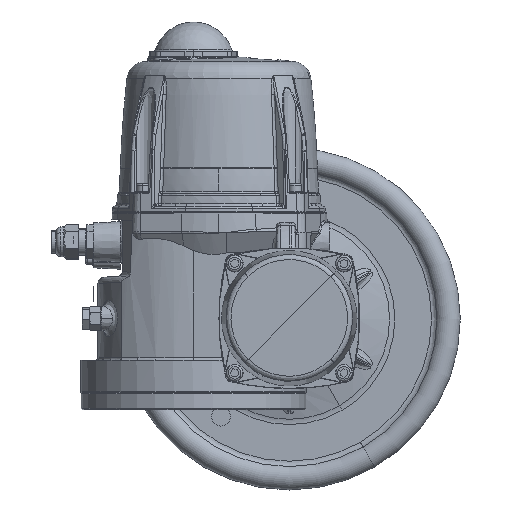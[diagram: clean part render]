
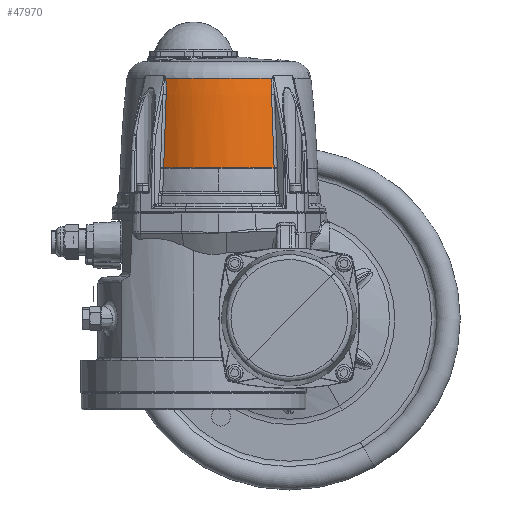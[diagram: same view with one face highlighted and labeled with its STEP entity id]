
A CAD part, top view. The second image highlights one B-rep face of the part: STEP entity #47970.
In plain terms, the highlighted toroidal (fillet/blend) face has major radius 830.547 mm and minor radius 908.797 mm.
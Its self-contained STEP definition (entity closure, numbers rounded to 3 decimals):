
#149 = EDGE_CURVE ( 'NONE', #50476, #1696, #61578, .T. ) ;
#1696 = VERTEX_POINT ( 'NONE', #61637 ) ;
#12374 = CARTESIAN_POINT ( 'NONE',  ( 151.626, 25.896, 59.202 ) ) ;
#26883 = DIRECTION ( 'NONE',  ( 1., 0., 0. ) ) ;
#26884 = DIRECTION ( 'NONE',  ( 0., 1., 0. ) ) ;
#26885 = CARTESIAN_POINT ( 'NONE',  ( 193.683, 25.896, 0. ) ) ;
#26886 = AXIS2_PLACEMENT_3D ( 'NONE', #26885, #26884, #26883 ) ;
#26887 = CIRCLE ( 'NONE', #26886, 72.62 ) ;
#26909 = DIRECTION ( 'NONE',  ( 1., 0., 0. ) ) ;
#26910 = DIRECTION ( 'NONE',  ( 0., 1., 0. ) ) ;
#26911 = CARTESIAN_POINT ( 'NONE',  ( 193.683, -75.104, 0. ) ) ;
#26912 = AXIS2_PLACEMENT_3D ( 'NONE', #26911, #26910, #26909 ) ;
#26918 = TOROIDAL_SURFACE ( 'NONE', #26912, -830.547, 908.797 ) ;
#26921 = FACE_OUTER_BOUND ( 'NONE', #48243, .T. ) ;
#26984 = CARTESIAN_POINT ( 'NONE',  ( 150.441, -25.605, 63.653 ) ) ;
#26985 = CARTESIAN_POINT ( 'NONE',  ( 151.104, -6.319, 62.583 ) ) ;
#26986 = CARTESIAN_POINT ( 'NONE',  ( 151.546, 3.316, 61.937 ) ) ;
#26987 = CARTESIAN_POINT ( 'NONE',  ( 152.098, 12.936, 61.18 ) ) ;
#26991 = CARTESIAN_POINT ( 'NONE',  ( 152.098, 12.936, 61.18 ) ) ;
#26992 = CARTESIAN_POINT ( 'NONE',  ( 152.161, 14.03, 61.094 ) ) ;
#26993 = CARTESIAN_POINT ( 'NONE',  ( 152.209, 15.123, 60.996 ) ) ;
#26994 = CARTESIAN_POINT ( 'NONE',  ( 152.266, 17.307, 60.768 ) ) ;
#26995 = CARTESIAN_POINT ( 'NONE',  ( 152.276, 18.398, 60.639 ) ) ;
#26996 = CARTESIAN_POINT ( 'NONE',  ( 152.24, 20.576, 60.338 ) ) ;
#26997 = CARTESIAN_POINT ( 'NONE',  ( 152.196, 21.66, 60.168 ) ) ;
#26999 = B_SPLINE_CURVE_WITH_KNOTS ( 'NONE', 3,
 ( #26987, #26986, #26985, #26984, #27103, #27102 ),
 .UNSPECIFIED., .F., .F.,
 ( 4, 2, 4 ),
 ( 0., 0.029, 0.058 ),
 .UNSPECIFIED. ) ;
#27102 = CARTESIAN_POINT ( 'NONE',  ( 150.109, -44.916, 64.39 ) ) ;
#27103 = CARTESIAN_POINT ( 'NONE',  ( 150.22, -35.256, 64.077 ) ) ;
#27104 = CARTESIAN_POINT ( 'NONE',  ( 152.059, 23.268, 59.861 ) ) ;
#27105 = CARTESIAN_POINT ( 'NONE',  ( 152.001, 23.801, 59.75 ) ) ;
#27106 = CARTESIAN_POINT ( 'NONE',  ( 151.849, 24.857, 59.501 ) ) ;
#27107 = CARTESIAN_POINT ( 'NONE',  ( 151.756, 25.381, 59.365 ) ) ;
#27108 = CARTESIAN_POINT ( 'NONE',  ( 151.626, 25.896, 59.202 ) ) ;
#27109 = CARTESIAN_POINT ( 'NONE',  ( 152.098, 12.936, 61.18 ) ) ;
#27110 = B_SPLINE_CURVE_WITH_KNOTS ( 'NONE', 3,
 ( #27108, #27107, #27106, #27105, #27104, #26997, #26996, #26995, #26994, #26993, #26992, #26991 ),
 .UNSPECIFIED., .F., .F.,
 ( 4, 2, 2, 2, 2, 4 ),
 ( 0., 0.002, 0.003, 0.007, 0.01, 0.013 ),
 .UNSPECIFIED. ) ;
#31517 = VERTEX_POINT ( 'NONE', #12374 ) ;
#47913 = EDGE_CURVE ( 'NONE', #31517, #70443, #26887, .T. ) ;
#47970 = ADVANCED_FACE ( 'NONE', ( #26921 ), #26918, .T. ) ;
#48058 = ORIENTED_EDGE ( 'NONE', *, *, #48059, .T. ) ;
#48059 = EDGE_CURVE ( 'NONE', #31517, #48060, #27110, .T. ) ;
#48060 = VERTEX_POINT ( 'NONE', #27109 ) ;
#48062 = ORIENTED_EDGE ( 'NONE', *, *, #48064, .T. ) ;
#48064 = EDGE_CURVE ( 'NONE', #48060, #50475, #26999, .T. ) ;
#48218 = ORIENTED_EDGE ( 'NONE', *, *, #70406, .T. ) ;
#48241 = ORIENTED_EDGE ( 'NONE', *, *, #50474, .T. ) ;
#48242 = ORIENTED_EDGE ( 'NONE', *, *, #149, .T. ) ;
#48243 = EDGE_LOOP ( 'NONE', ( #48245, #48058, #48062, #48241, #48242, #48218 ) ) ;
#48245 = ORIENTED_EDGE ( 'NONE', *, *, #47913, .F. ) ;
#50474 = EDGE_CURVE ( 'NONE', #50475, #50476, #69015, .T. ) ;
#50475 = VERTEX_POINT ( 'NONE', #69017 ) ;
#50476 = VERTEX_POINT ( 'NONE', #68987 ) ;
#54499 = CARTESIAN_POINT ( 'NONE',  ( 235.741, 25.896, 59.202 ) ) ;
#54500 = CARTESIAN_POINT ( 'NONE',  ( 235.741, 25.896, 59.202 ) ) ;
#54501 = CARTESIAN_POINT ( 'NONE',  ( 235.612, 25.382, 59.364 ) ) ;
#54502 = CARTESIAN_POINT ( 'NONE',  ( 235.518, 24.858, 59.501 ) ) ;
#54503 = CARTESIAN_POINT ( 'NONE',  ( 235.366, 23.802, 59.75 ) ) ;
#54504 = CARTESIAN_POINT ( 'NONE',  ( 235.308, 23.269, 59.861 ) ) ;
#54505 = CARTESIAN_POINT ( 'NONE',  ( 235.171, 21.659, 60.168 ) ) ;
#54552 = CARTESIAN_POINT ( 'NONE',  ( 235.127, 20.571, 60.339 ) ) ;
#54553 = CARTESIAN_POINT ( 'NONE',  ( 235.091, 18.395, 60.639 ) ) ;
#54554 = CARTESIAN_POINT ( 'NONE',  ( 235.101, 17.305, 60.768 ) ) ;
#54555 = CARTESIAN_POINT ( 'NONE',  ( 235.158, 15.122, 60.996 ) ) ;
#54556 = CARTESIAN_POINT ( 'NONE',  ( 235.206, 14.03, 61.094 ) ) ;
#54558 = CARTESIAN_POINT ( 'NONE',  ( 235.269, 12.936, 61.18 ) ) ;
#54563 = B_SPLINE_CURVE_WITH_KNOTS ( 'NONE', 3,
 ( #54558, #54556, #54555, #54554, #54553, #54552, #54505, #54504, #54503, #54502, #54501, #54500 ),
 .UNSPECIFIED., .F., .F.,
 ( 4, 2, 2, 2, 2, 4 ),
 ( 0., 0.003, 0.007, 0.01, 0.012, 0.013 ),
 .UNSPECIFIED. ) ;
#61545 = CARTESIAN_POINT ( 'NONE',  ( 235.269, 12.936, 61.18 ) ) ;
#61546 = CARTESIAN_POINT ( 'NONE',  ( 235.821, 3.316, 61.937 ) ) ;
#61547 = CARTESIAN_POINT ( 'NONE',  ( 236.262, -6.315, 62.583 ) ) ;
#61548 = CARTESIAN_POINT ( 'NONE',  ( 236.926, -25.601, 63.653 ) ) ;
#61549 = CARTESIAN_POINT ( 'NONE',  ( 237.147, -35.256, 64.077 ) ) ;
#61550 = CARTESIAN_POINT ( 'NONE',  ( 237.258, -44.916, 64.39 ) ) ;
#61578 = B_SPLINE_CURVE_WITH_KNOTS ( 'NONE', 3,
 ( #61550, #61549, #61548, #61547, #61546, #61545 ),
 .UNSPECIFIED., .F., .F.,
 ( 4, 2, 4 ),
 ( 0., 0.029, 0.058 ),
 .UNSPECIFIED. ) ;
#61637 = CARTESIAN_POINT ( 'NONE',  ( 235.269, 12.936, 61.18 ) ) ;
#68987 = CARTESIAN_POINT ( 'NONE',  ( 237.258, -44.916, 64.39 ) ) ;
#68988 = DIRECTION ( 'NONE',  ( -1., 0., 0. ) ) ;
#69012 = DIRECTION ( 'NONE',  ( 0., 1., 0. ) ) ;
#69013 = CARTESIAN_POINT ( 'NONE',  ( 193.683, -44.916, 0. ) ) ;
#69014 = AXIS2_PLACEMENT_3D ( 'NONE', #69013, #69012, #68988 ) ;
#69015 = CIRCLE ( 'NONE', #69014, 77.748 ) ;
#69017 = CARTESIAN_POINT ( 'NONE',  ( 150.109, -44.916, 64.39 ) ) ;
#70406 = EDGE_CURVE ( 'NONE', #1696, #70443, #54563, .T. ) ;
#70443 = VERTEX_POINT ( 'NONE', #54499 ) ;
